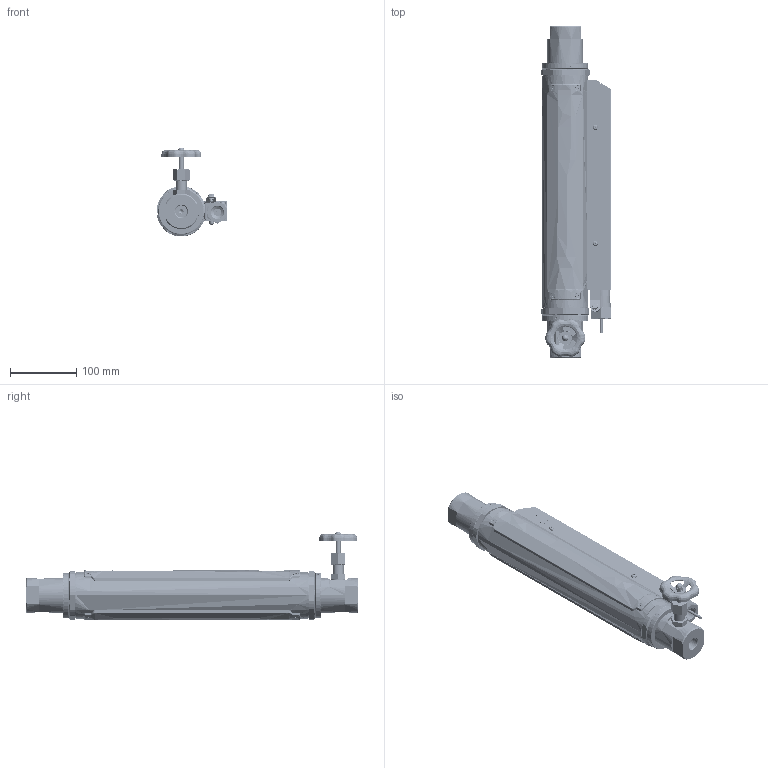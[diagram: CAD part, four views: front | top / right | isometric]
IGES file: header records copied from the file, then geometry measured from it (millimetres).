
Start section: SolidWorks IGES file using analytic representation for surfaces
Global section: file name: G:\Engineering\CAD MODELS FOR SALES\CAD MODEL STORAGE\GT1600\CUSTOMER FILES\IGES\1614-KC-2-AA-1-1.IGS; native system: SolidWorks 2020; preprocessor: SolidWorks 2020; author: CRaksin; date: 230104.105348; units: inch
Bounding box: 106.37 x 500 x 133.95 mm (x, y, z)
Surface area: 493650.8 mm2 (no closed solid volume)
Topology: 0 solids, 0 shells, 4391 faces, 42724 edges, 42659 vertices
Faces by surface type: bspline 3185, revolution 1206
